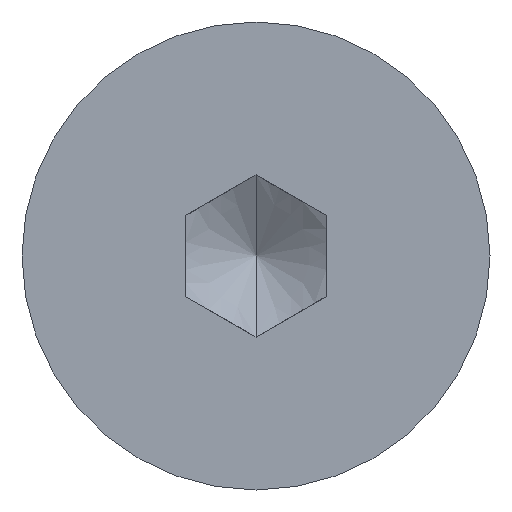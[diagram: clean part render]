
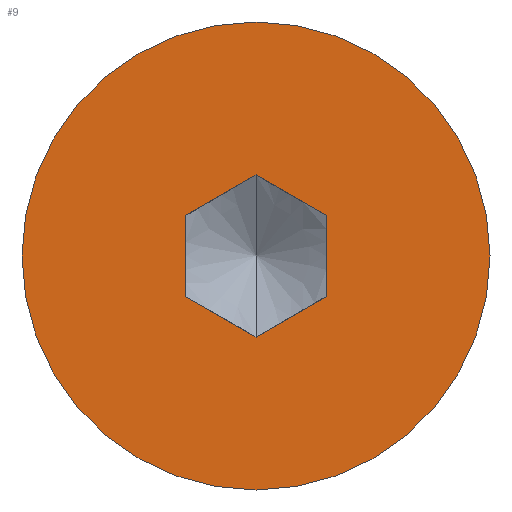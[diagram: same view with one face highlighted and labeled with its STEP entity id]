
A CAD part, left-side view. The second image highlights one B-rep face of the part: STEP entity #9.
In plain terms, the highlighted planar face has unit normal (-1, 0, 0).
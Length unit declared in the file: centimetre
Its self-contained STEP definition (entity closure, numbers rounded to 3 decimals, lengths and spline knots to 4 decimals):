
#2 = EDGE_LOOP ( 'NONE', ( #6, #5, #28, #31, #29, #30 ) ) ;
#5 = ORIENTED_EDGE ( 'NONE', *, *, #12, .T. ) ;
#6 = ORIENTED_EDGE ( 'NONE', *, *, #76, .T. ) ;
#9 = ADVANCED_FACE ( 'NONE', ( #214, #213 ), #212, .T. ) ;
#12 = EDGE_CURVE ( 'NONE', #74, #75, #207, .T. ) ;
#21 = ORIENTED_EDGE ( 'NONE', *, *, #129, .F. ) ;
#22 = ORIENTED_EDGE ( 'NONE', *, *, #24, .F. ) ;
#24 = EDGE_CURVE ( 'NONE', #131, #130, #239, .T. ) ;
#28 = ORIENTED_EDGE ( 'NONE', *, *, #68, .T. ) ;
#29 = ORIENTED_EDGE ( 'NONE', *, *, #187, .T. ) ;
#30 = ORIENTED_EDGE ( 'NONE', *, *, #171, .T. ) ;
#31 = ORIENTED_EDGE ( 'NONE', *, *, #108, .T. ) ;
#32 = EDGE_LOOP ( 'NONE', ( #21, #22 ) ) ;
#68 = EDGE_CURVE ( 'NONE', #75, #109, #315, .T. ) ;
#74 = VERTEX_POINT ( 'NONE', #294 ) ;
#75 = VERTEX_POINT ( 'NONE', #293 ) ;
#76 = EDGE_CURVE ( 'NONE', #169, #74, #291, .T. ) ;
#108 = EDGE_CURVE ( 'NONE', #109, #188, #405, .T. ) ;
#109 = VERTEX_POINT ( 'NONE', #401 ) ;
#129 = EDGE_CURVE ( 'NONE', #130, #131, #430, .T. ) ;
#130 = VERTEX_POINT ( 'NONE', #426 ) ;
#131 = VERTEX_POINT ( 'NONE', #425 ) ;
#169 = VERTEX_POINT ( 'NONE', #478 ) ;
#171 = EDGE_CURVE ( 'NONE', #185, #169, #477, .T. ) ;
#185 = VERTEX_POINT ( 'NONE', #562 ) ;
#187 = EDGE_CURVE ( 'NONE', #188, #185, #561, .T. ) ;
#188 = VERTEX_POINT ( 'NONE', #557 ) ;
#204 = DIRECTION ( 'NONE',  ( 0., 0.866, 0.5 ) ) ;
#205 = VECTOR ( 'NONE', #204, 100. ) ;
#206 = CARTESIAN_POINT ( 'NONE',  ( 0., 0., -0.1732 ) ) ;
#207 = LINE ( 'NONE', #206, #205 ) ;
#208 = DIRECTION ( 'NONE',  ( 0., -1., 0. ) ) ;
#209 = DIRECTION ( 'NONE',  ( -1., 0., 0. ) ) ;
#210 = CARTESIAN_POINT ( 'NONE',  ( 0., 0.3366, 0. ) ) ;
#211 = AXIS2_PLACEMENT_3D ( 'NONE', #210, #209, #208 ) ;
#212 = PLANE ( 'NONE',  #211 ) ;
#213 = FACE_OUTER_BOUND ( 'NONE', #32, .T. ) ;
#214 = FACE_BOUND ( 'NONE', #2, .T. ) ;
#235 = DIRECTION ( 'NONE',  ( 0., 1., 0. ) ) ;
#236 = DIRECTION ( 'NONE',  ( 1., 0., 0. ) ) ;
#237 = CARTESIAN_POINT ( 'NONE',  ( 0., 0., 0. ) ) ;
#238 = AXIS2_PLACEMENT_3D ( 'NONE', #237, #236, #235 ) ;
#239 = CIRCLE ( 'NONE', #238, 0.5 ) ;
#288 = DIRECTION ( 'NONE',  ( 0., 0.866, -0.5 ) ) ;
#289 = VECTOR ( 'NONE', #288, 100. ) ;
#290 = CARTESIAN_POINT ( 'NONE',  ( 0., 0., -0.1732 ) ) ;
#291 = LINE ( 'NONE', #290, #289 ) ;
#293 = CARTESIAN_POINT ( 'NONE',  ( 0., 0.15, -0.0866 ) ) ;
#294 = CARTESIAN_POINT ( 'NONE',  ( 0., 0., -0.1732 ) ) ;
#312 = DIRECTION ( 'NONE',  ( 0., 0., 1. ) ) ;
#313 = VECTOR ( 'NONE', #312, 100. ) ;
#314 = CARTESIAN_POINT ( 'NONE',  ( 0., 0.15, 0.0866 ) ) ;
#315 = LINE ( 'NONE', #314, #313 ) ;
#401 = CARTESIAN_POINT ( 'NONE',  ( 0., 0.15, 0.0866 ) ) ;
#402 = DIRECTION ( 'NONE',  ( 0., -0.866, 0.5 ) ) ;
#403 = VECTOR ( 'NONE', #402, 100. ) ;
#404 = CARTESIAN_POINT ( 'NONE',  ( 0., 0., 0.1732 ) ) ;
#405 = LINE ( 'NONE', #404, #403 ) ;
#425 = CARTESIAN_POINT ( 'NONE',  ( 0., -0.5, 0. ) ) ;
#426 = CARTESIAN_POINT ( 'NONE',  ( 0., 0.5, 0. ) ) ;
#427 = DIRECTION ( 'NONE',  ( 0., 1., 0. ) ) ;
#428 = DIRECTION ( 'NONE',  ( 1., 0., 0. ) ) ;
#429 = AXIS2_PLACEMENT_3D ( 'NONE', #436, #428, #427 ) ;
#430 = CIRCLE ( 'NONE', #429, 0.5 ) ;
#436 = CARTESIAN_POINT ( 'NONE',  ( 0., 0., 0. ) ) ;
#474 = DIRECTION ( 'NONE',  ( 0., 0., -1. ) ) ;
#475 = VECTOR ( 'NONE', #474, 100. ) ;
#476 = CARTESIAN_POINT ( 'NONE',  ( 0., -0.15, -0.0866 ) ) ;
#477 = LINE ( 'NONE', #476, #475 ) ;
#478 = CARTESIAN_POINT ( 'NONE',  ( 0., -0.15, -0.0866 ) ) ;
#557 = CARTESIAN_POINT ( 'NONE',  ( 0., 0., 0.1732 ) ) ;
#558 = DIRECTION ( 'NONE',  ( 0., -0.866, -0.5 ) ) ;
#559 = VECTOR ( 'NONE', #558, 100. ) ;
#560 = CARTESIAN_POINT ( 'NONE',  ( 0., -0.15, 0.0866 ) ) ;
#561 = LINE ( 'NONE', #560, #559 ) ;
#562 = CARTESIAN_POINT ( 'NONE',  ( 0., -0.15, 0.0866 ) ) ;
